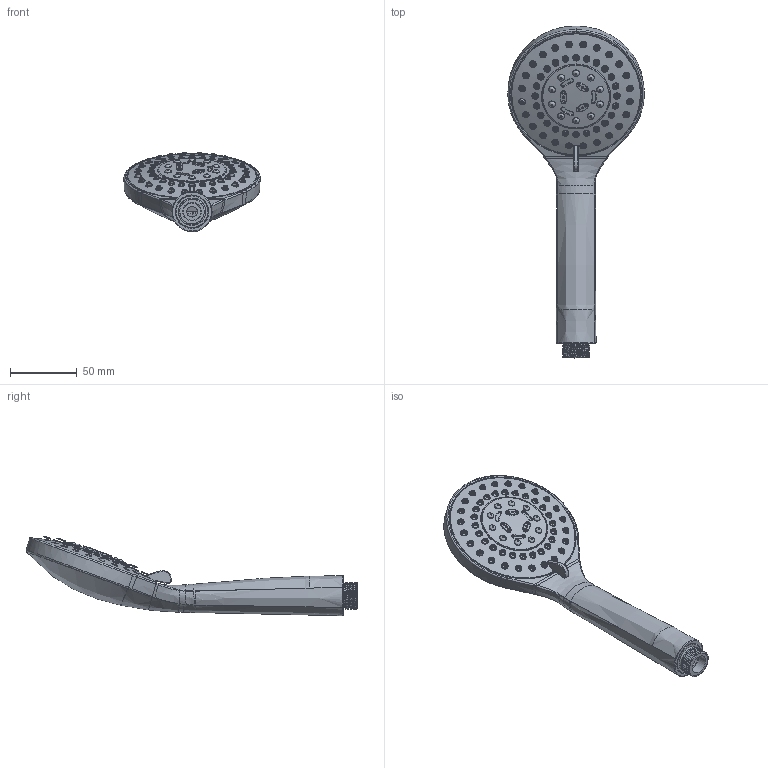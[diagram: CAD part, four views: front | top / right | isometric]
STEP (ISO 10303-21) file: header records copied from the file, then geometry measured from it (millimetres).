
FILE_DESCRIPTION(/* description */ (''),/* implementation_level */ '2;1');
FILE_NAME(/* name */ 'c:\worker\convert-fusion-r05\tmp\job-1\15\output\files\99513c8e-f7aa-460d-b0ec-c04d029dfaac\5637ecbf-d4b8-4da0-8df6-205883e8a6ee.stp',/* time_stamp */ '2020-07-02T07:01:46+00:00',/* author */ (''),/* organization */ (''),/* preprocessor_version */ 'ST-DEVELOPER v18.1',/* originating_system */ 'Autodesk Translation Framework v9.3.0.1241',/* authorisation */ '');
FILE_SCHEMA (('AUTOMOTIVE_DESIGN { 1 0 10303 214 3 1 1 }'));
Products named in the file (1): !Yosemite-R
Bounding box: 101.86 x 247.94 x 59.38 mm (x, y, z)
Volume: 131766.8 mm3; surface area: 104943.1 mm2
Topology: 5 solids, 5 shells, 1799 faces, 4667 edges, 3021 vertices
Faces by surface type: plane 531, bspline 452, cylinder 346, cone 225, torus 204, sphere 41
Full cylindrical faces by diameter (mm): 1.2 x10, 2 x8, 2.5 x9, 3 x4, 3.2 x1, 5 x48, 6 x10, 8 x1, 12.9 x1, 13.9 x2, 14 x1, 16.5 x1, 18 x1, 18.9 x1, 20.4 x6, 27.2 x1, 31.2 x1, 35.4 x1, 46 x1, 46.6 x1, 47 x4, 49 x4, 49.4 x2, 50.3 x1, 50.6 x1, 50.8 x1, 51.6 x1, 55 x2, 85.6 x2
Entity records: 145915 total; most frequent: CARTESIAN_POINT 104440, ORIENTED_EDGE 9328, DIRECTION 7676, EDGE_CURVE 4664, AXIS2_PLACEMENT_3D 3292, VERTEX_POINT 3021, EDGE_LOOP 2213, FACE_OUTER_BOUND 1799
